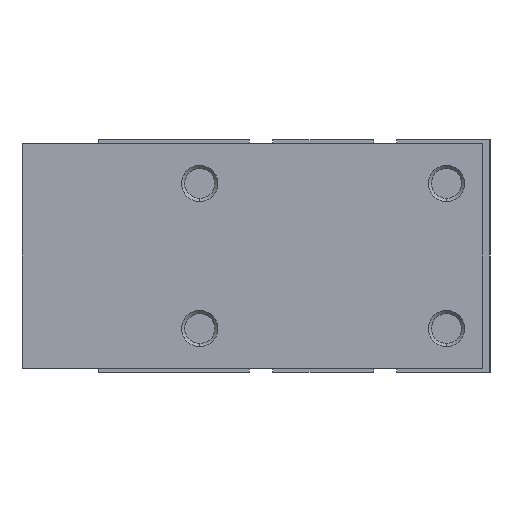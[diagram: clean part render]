
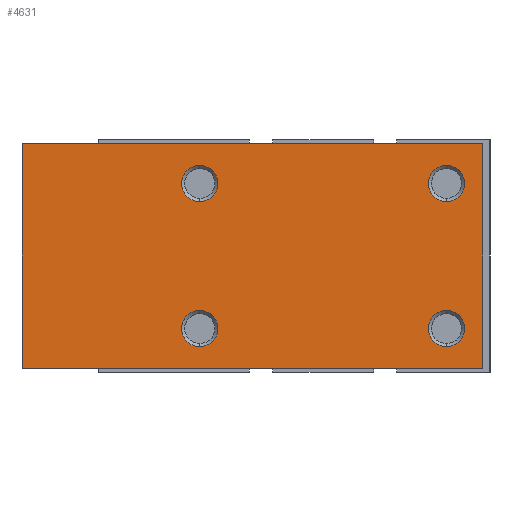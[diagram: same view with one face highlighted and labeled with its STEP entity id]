
A CAD part, left-side view. The second image highlights one B-rep face of the part: STEP entity #4631.
In plain terms, the highlighted planar face has unit normal (-1, 0, 0).
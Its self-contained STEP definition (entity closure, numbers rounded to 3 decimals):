
#48 = CARTESIAN_POINT ( 'NONE',  ( -15.5, 41.5, 15.5 ) ) ;
#110 = DIRECTION ( 'NONE',  ( -1., 0., 0. ) ) ;
#125 = EDGE_LOOP ( 'NONE', ( #5550, #3395 ) ) ;
#131 = AXIS2_PLACEMENT_3D ( 'NONE', #281, #1746, #5862 ) ;
#228 = CARTESIAN_POINT ( 'NONE',  ( -15.5, 17., -10. ) ) ;
#259 = EDGE_CURVE ( 'NONE', #2178, #669, #5302, .T. ) ;
#267 = DIRECTION ( 'NONE',  ( 0., -1., 0. ) ) ;
#281 = CARTESIAN_POINT ( 'NONE',  ( -15.5, 41.5, 15.5 ) ) ;
#443 = VERTEX_POINT ( 'NONE', #3828 ) ;
#483 = CARTESIAN_POINT ( 'NONE',  ( -15.5, -17., -7.5 ) ) ;
#487 = VERTEX_POINT ( 'NONE', #658 ) ;
#510 = DIRECTION ( 'NONE',  ( -1., 0., 0. ) ) ;
#623 = EDGE_CURVE ( 'NONE', #5340, #2831, #2690, .T. ) ;
#658 = CARTESIAN_POINT ( 'NONE',  ( -15.5, -17., 7.5 ) ) ;
#667 = DIRECTION ( 'NONE',  ( 0., 0., 1. ) ) ;
#669 = VERTEX_POINT ( 'NONE', #5874 ) ;
#707 = FACE_BOUND ( 'NONE', #3754, .T. ) ;
#741 = FACE_BOUND ( 'NONE', #125, .T. ) ;
#802 = CARTESIAN_POINT ( 'NONE',  ( -15.5, -22., 15.5 ) ) ;
#937 = ORIENTED_EDGE ( 'NONE', *, *, #3182, .T. ) ;
#1130 = VERTEX_POINT ( 'NONE', #5007 ) ;
#1133 = EDGE_LOOP ( 'NONE', ( #1155, #1634 ) ) ;
#1143 = CIRCLE ( 'NONE', #2410, 2.5 ) ;
#1155 = ORIENTED_EDGE ( 'NONE', *, *, #259, .F. ) ;
#1390 = VECTOR ( 'NONE', #2501, 1000. ) ;
#1409 = AXIS2_PLACEMENT_3D ( 'NONE', #2899, #5820, #3050 ) ;
#1476 = ORIENTED_EDGE ( 'NONE', *, *, #1758, .F. ) ;
#1543 = CARTESIAN_POINT ( 'NONE',  ( -15.5, -17., -10. ) ) ;
#1578 = CARTESIAN_POINT ( 'NONE',  ( -15.5, 17., 12.5 ) ) ;
#1629 = VERTEX_POINT ( 'NONE', #483 ) ;
#1634 = ORIENTED_EDGE ( 'NONE', *, *, #3548, .F. ) ;
#1746 = DIRECTION ( 'NONE',  ( 1., 0., 0. ) ) ;
#1748 = ORIENTED_EDGE ( 'NONE', *, *, #5228, .T. ) ;
#1758 = EDGE_CURVE ( 'NONE', #487, #5369, #5849, .T. ) ;
#1795 = DIRECTION ( 'NONE',  ( 0., 0., 1. ) ) ;
#1802 = AXIS2_PLACEMENT_3D ( 'NONE', #1543, #3368, #2069 ) ;
#1963 = DIRECTION ( 'NONE',  ( -1., 0., 0. ) ) ;
#2069 = DIRECTION ( 'NONE',  ( 0., 0., 1. ) ) ;
#2106 = CIRCLE ( 'NONE', #3074, 2.5 ) ;
#2178 = VERTEX_POINT ( 'NONE', #1578 ) ;
#2267 = AXIS2_PLACEMENT_3D ( 'NONE', #4695, #510, #2384 ) ;
#2289 = DIRECTION ( 'NONE',  ( 0., 0., -1. ) ) ;
#2384 = DIRECTION ( 'NONE',  ( 0., 0., 1. ) ) ;
#2410 = AXIS2_PLACEMENT_3D ( 'NONE', #4079, #4139, #3704 ) ;
#2474 = EDGE_CURVE ( 'NONE', #1629, #5129, #1143, .T. ) ;
#2491 = CIRCLE ( 'NONE', #1802, 2.5 ) ;
#2501 = DIRECTION ( 'NONE',  ( 0., 0., -1. ) ) ;
#2518 = AXIS2_PLACEMENT_3D ( 'NONE', #3410, #110, #5725 ) ;
#2573 = LINE ( 'NONE', #5477, #4951 ) ;
#2615 = FACE_BOUND ( 'NONE', #5411, .T. ) ;
#2690 = LINE ( 'NONE', #5500, #3031 ) ;
#2831 = VERTEX_POINT ( 'NONE', #802 ) ;
#2899 = CARTESIAN_POINT ( 'NONE',  ( -15.5, 17., 10. ) ) ;
#3031 = VECTOR ( 'NONE', #267, 1000. ) ;
#3050 = DIRECTION ( 'NONE',  ( 0., 0., 1. ) ) ;
#3072 = VECTOR ( 'NONE', #2289, 1000. ) ;
#3074 = AXIS2_PLACEMENT_3D ( 'NONE', #3086, #4510, #667 ) ;
#3086 = CARTESIAN_POINT ( 'NONE',  ( -15.5, 17., -10. ) ) ;
#3131 = DIRECTION ( 'NONE',  ( 0., 0., 1. ) ) ;
#3174 = ORIENTED_EDGE ( 'NONE', *, *, #2474, .F. ) ;
#3182 = EDGE_CURVE ( 'NONE', #1130, #3817, #2573, .T. ) ;
#3314 = CARTESIAN_POINT ( 'NONE',  ( -15.5, -17., 10. ) ) ;
#3368 = DIRECTION ( 'NONE',  ( -1., 0., 0. ) ) ;
#3375 = LINE ( 'NONE', #4356, #1390 ) ;
#3395 = ORIENTED_EDGE ( 'NONE', *, *, #5445, .F. ) ;
#3410 = CARTESIAN_POINT ( 'NONE',  ( -15.5, 17., 10. ) ) ;
#3435 = CARTESIAN_POINT ( 'NONE',  ( -15.5, 17., -7.5 ) ) ;
#3492 = DIRECTION ( 'NONE',  ( -1., 0., 0. ) ) ;
#3543 = CIRCLE ( 'NONE', #5779, 2.5 ) ;
#3548 = EDGE_CURVE ( 'NONE', #669, #2178, #5710, .T. ) ;
#3704 = DIRECTION ( 'NONE',  ( 0., 0., 1. ) ) ;
#3709 = CARTESIAN_POINT ( 'NONE',  ( -15.5, -17., -12.5 ) ) ;
#3754 = EDGE_LOOP ( 'NONE', ( #5004, #1476 ) ) ;
#3763 = ORIENTED_EDGE ( 'NONE', *, *, #5867, .F. ) ;
#3767 = EDGE_CURVE ( 'NONE', #5323, #443, #2106, .T. ) ;
#3817 = VERTEX_POINT ( 'NONE', #5054 ) ;
#3828 = CARTESIAN_POINT ( 'NONE',  ( -15.5, 17., -12.5 ) ) ;
#3878 = EDGE_CURVE ( 'NONE', #5369, #487, #5398, .T. ) ;
#4049 = EDGE_CURVE ( 'NONE', #5129, #1629, #2491, .T. ) ;
#4079 = CARTESIAN_POINT ( 'NONE',  ( -15.5, -17., -10. ) ) ;
#4139 = DIRECTION ( 'NONE',  ( -1., 0., 0. ) ) ;
#4161 = ORIENTED_EDGE ( 'NONE', *, *, #4049, .F. ) ;
#4356 = CARTESIAN_POINT ( 'NONE',  ( -15.5, 41.5, 15.5 ) ) ;
#4467 = PLANE ( 'NONE',  #131 ) ;
#4492 = CARTESIAN_POINT ( 'NONE',  ( -15.5, -22., 15.5 ) ) ;
#4510 = DIRECTION ( 'NONE',  ( -1., 0., 0. ) ) ;
#4631 = ADVANCED_FACE ( 'NONE', ( #5456, #741, #707, #2615, #5892 ), #4467, .F. ) ;
#4695 = CARTESIAN_POINT ( 'NONE',  ( -15.5, -17., 10. ) ) ;
#4886 = EDGE_LOOP ( 'NONE', ( #937, #3763, #5252, #1748 ) ) ;
#4951 = VECTOR ( 'NONE', #5027, 1000. ) ;
#5004 = ORIENTED_EDGE ( 'NONE', *, *, #3878, .F. ) ;
#5007 = CARTESIAN_POINT ( 'NONE',  ( -15.5, 41.5, -15.5 ) ) ;
#5027 = DIRECTION ( 'NONE',  ( 0., -1., 0. ) ) ;
#5054 = CARTESIAN_POINT ( 'NONE',  ( -15.5, -22., -15.5 ) ) ;
#5129 = VERTEX_POINT ( 'NONE', #3709 ) ;
#5228 = EDGE_CURVE ( 'NONE', #5340, #1130, #3375, .T. ) ;
#5252 = ORIENTED_EDGE ( 'NONE', *, *, #623, .F. ) ;
#5302 = CIRCLE ( 'NONE', #1409, 2.5 ) ;
#5323 = VERTEX_POINT ( 'NONE', #3435 ) ;
#5340 = VERTEX_POINT ( 'NONE', #48 ) ;
#5351 = CARTESIAN_POINT ( 'NONE',  ( -15.5, -17., 12.5 ) ) ;
#5369 = VERTEX_POINT ( 'NONE', #5351 ) ;
#5398 = CIRCLE ( 'NONE', #5790, 2.5 ) ;
#5411 = EDGE_LOOP ( 'NONE', ( #3174, #4161 ) ) ;
#5445 = EDGE_CURVE ( 'NONE', #443, #5323, #3543, .T. ) ;
#5456 = FACE_OUTER_BOUND ( 'NONE', #4886, .T. ) ;
#5477 = CARTESIAN_POINT ( 'NONE',  ( -15.5, 41.5, -15.5 ) ) ;
#5500 = CARTESIAN_POINT ( 'NONE',  ( -15.5, 41.5, 15.5 ) ) ;
#5550 = ORIENTED_EDGE ( 'NONE', *, *, #3767, .F. ) ;
#5710 = CIRCLE ( 'NONE', #2518, 2.5 ) ;
#5725 = DIRECTION ( 'NONE',  ( 0., 0., 1. ) ) ;
#5779 = AXIS2_PLACEMENT_3D ( 'NONE', #228, #3492, #3131 ) ;
#5790 = AXIS2_PLACEMENT_3D ( 'NONE', #3314, #1963, #1795 ) ;
#5804 = LINE ( 'NONE', #4492, #3072 ) ;
#5820 = DIRECTION ( 'NONE',  ( -1., 0., 0. ) ) ;
#5849 = CIRCLE ( 'NONE', #2267, 2.5 ) ;
#5862 = DIRECTION ( 'NONE',  ( 0., 1., 0. ) ) ;
#5867 = EDGE_CURVE ( 'NONE', #2831, #3817, #5804, .T. ) ;
#5874 = CARTESIAN_POINT ( 'NONE',  ( -15.5, 17., 7.5 ) ) ;
#5892 = FACE_BOUND ( 'NONE', #1133, .T. ) ;
